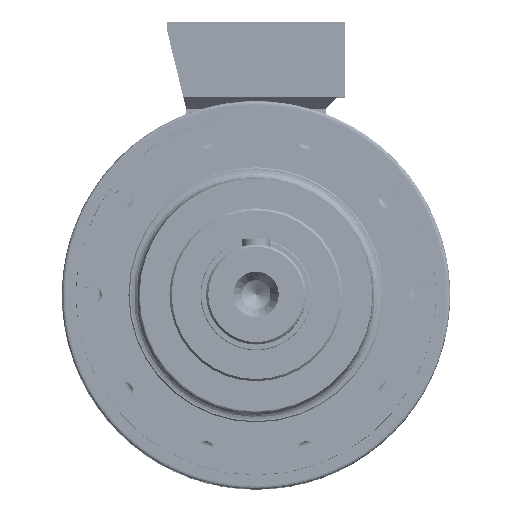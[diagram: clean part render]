
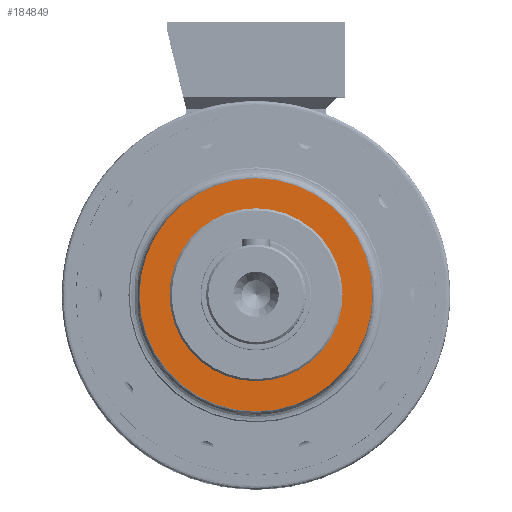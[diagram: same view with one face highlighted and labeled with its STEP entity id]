
A CAD part, top view. The second image highlights one B-rep face of the part: STEP entity #184849.
In plain terms, the highlighted planar face has unit normal (0, 0, 1).
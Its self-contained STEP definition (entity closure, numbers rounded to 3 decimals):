
#5944 = AXIS2_PLACEMENT_3D ( 'NONE', #32819, #32849, #32905 ) ;
#11599 = CARTESIAN_POINT ( 'NONE',  ( 0., 105., 181. ) ) ;
#11619 = CARTESIAN_POINT ( 'NONE',  ( 0., -78., 181. ) ) ;
#12783 = CARTESIAN_POINT ( 'NONE',  ( 0., 78., 181. ) ) ;
#12815 = CARTESIAN_POINT ( 'NONE',  ( 0., -105., 181. ) ) ;
#15922 = FACE_BOUND ( 'NONE', #36837, .T. ) ;
#15963 = FACE_OUTER_BOUND ( 'NONE', #36869, .T. ) ;
#27122 = EDGE_CURVE ( 'NONE', #181197, #181050, #128744, .T. ) ;
#27194 = EDGE_CURVE ( 'NONE', #181240, #181040, #128760, .T. ) ;
#27247 = EDGE_CURVE ( 'NONE', #181050, #181197, #128878, .T. ) ;
#27286 = EDGE_CURVE ( 'NONE', #181040, #181240, #128876, .T. ) ;
#32762 = PLANE ( 'NONE',  #5944 ) ;
#32819 = CARTESIAN_POINT ( 'NONE',  ( 0., 105., 181. ) ) ;
#32849 = DIRECTION ( 'NONE',  ( 0., 0., 1. ) ) ;
#32905 = DIRECTION ( 'NONE',  ( 0., -1., 0. ) ) ;
#36837 = EDGE_LOOP ( 'NONE', ( #192477, #192421 ) ) ;
#36869 = EDGE_LOOP ( 'NONE', ( #192474, #192531 ) ) ;
#128744 = CIRCLE ( 'NONE', #153567, 78. ) ;
#128760 = CIRCLE ( 'NONE', #153583, 105. ) ;
#128876 = CIRCLE ( 'NONE', #153488, 105. ) ;
#128878 = CIRCLE ( 'NONE', #153530, 78. ) ;
#153488 = AXIS2_PLACEMENT_3D ( 'NONE', #160976, #161020, #161023 ) ;
#153530 = AXIS2_PLACEMENT_3D ( 'NONE', #160898, #160878, #160917 ) ;
#153567 = AXIS2_PLACEMENT_3D ( 'NONE', #160625, #160614, #160483 ) ;
#153583 = AXIS2_PLACEMENT_3D ( 'NONE', #160824, #160840, #160788 ) ;
#160483 = DIRECTION ( 'NONE',  ( 0., 1., 0. ) ) ;
#160614 = DIRECTION ( 'NONE',  ( 0., 0., -1. ) ) ;
#160625 = CARTESIAN_POINT ( 'NONE',  ( 0., 0., 181. ) ) ;
#160788 = DIRECTION ( 'NONE',  ( 0., 1., 0. ) ) ;
#160824 = CARTESIAN_POINT ( 'NONE',  ( 0., 0., 181. ) ) ;
#160840 = DIRECTION ( 'NONE',  ( 0., 0., -1. ) ) ;
#160878 = DIRECTION ( 'NONE',  ( 0., 0., -1. ) ) ;
#160898 = CARTESIAN_POINT ( 'NONE',  ( 0., 0., 181. ) ) ;
#160917 = DIRECTION ( 'NONE',  ( 0., 1., 0. ) ) ;
#160976 = CARTESIAN_POINT ( 'NONE',  ( 0., 0., 181. ) ) ;
#161020 = DIRECTION ( 'NONE',  ( 0., 0., -1. ) ) ;
#161023 = DIRECTION ( 'NONE',  ( 0., 1., 0. ) ) ;
#181040 = VERTEX_POINT ( 'NONE', #12815 ) ;
#181050 = VERTEX_POINT ( 'NONE', #12783 ) ;
#181197 = VERTEX_POINT ( 'NONE', #11619 ) ;
#181240 = VERTEX_POINT ( 'NONE', #11599 ) ;
#184849 = ADVANCED_FACE ( 'NONE', ( #15963, #15922 ), #32762, .T. ) ;
#192421 = ORIENTED_EDGE ( 'NONE', *, *, #27122, .T. ) ;
#192474 = ORIENTED_EDGE ( 'NONE', *, *, #27194, .F. ) ;
#192477 = ORIENTED_EDGE ( 'NONE', *, *, #27247, .T. ) ;
#192531 = ORIENTED_EDGE ( 'NONE', *, *, #27286, .F. ) ;
